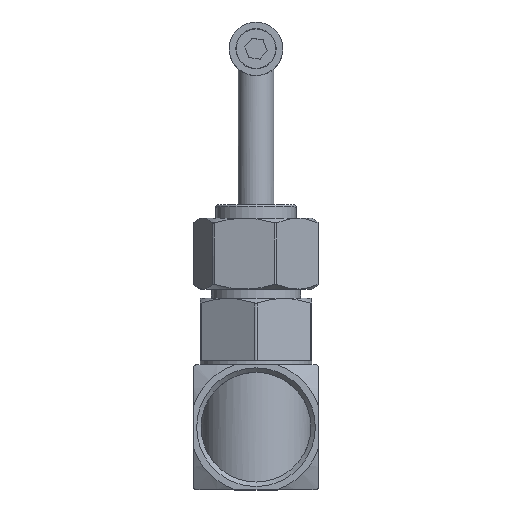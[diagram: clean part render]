
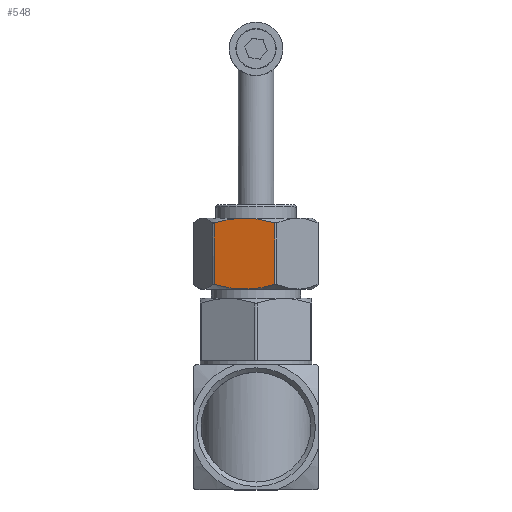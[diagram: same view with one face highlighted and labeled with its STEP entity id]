
A CAD part, top view. The second image highlights one B-rep face of the part: STEP entity #548.
In plain terms, the highlighted planar face has unit normal (-0.206, 0, 0.979).
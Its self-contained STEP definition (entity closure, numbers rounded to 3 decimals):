
#548=ADVANCED_FACE('',(#2056),#2058,.T.);
#2056=FACE_BOUND('',#2057,.T.);
#2057=EDGE_LOOP('',(#4092,#4093,#4094,#4095));
#2058=PLANE('',#2059);
#2059=AXIS2_PLACEMENT_3D('',#2060,#2061,#2062);
#2060=CARTESIAN_POINT('',(-9.636,31.,10.746));
#2061=DIRECTION('',(-0.206,0.,0.979));
#2062=DIRECTION('',(0.979,0.,0.206));
#4092=ORIENTED_EDGE('',*,*,#4884,.F.);
#4093=ORIENTED_EDGE('',*,*,#4885,.T.);
#4094=ORIENTED_EDGE('',*,*,#4877,.F.);
#4095=ORIENTED_EDGE('',*,*,#4886,.T.);
#4877=EDGE_CURVE('',#5398,#5396,#5400,.T.);
#4884=EDGE_CURVE('',#5411,#5412,#5413,.T.);
#4885=EDGE_CURVE('',#5411,#5396,#5414,.T.);
#4886=EDGE_CURVE('',#5398,#5412,#5415,.T.);
#5396=VERTEX_POINT('',#7944);
#5398=VERTEX_POINT('',#7987);
#5400=LINE('',#8030,#8031);
#5411=VERTEX_POINT('',#8215);
#5412=VERTEX_POINT('',#8216);
#5413=LINE('',#8217,#8218);
#5414=B_SPLINE_CURVE_WITH_KNOTS('',3,
(#8220,#8221,#8222,#8223,#8224,#8225,#8226,#8227,#8228,#8229,#8230,#8231,#8232,#8233,
#8234,#8235,#8236,#8237,#8238,#8239,#8240,#8241,#8242,#8243,#8244,#8245,#8246,#8247,
#8248,#8249,#8250,#8251,#8252,#8253,#8254,#8255),
.UNSPECIFIED.,.F.,.F.,
(4,1,1,1,1,1,1,1,1,1,1,1,1,1,1,1,1,1,1,1,1,1,1,1,1,1,1,1,1,1,1,1,1,4),
(0.,0.025,0.05,0.076,0.102,0.127,
0.154,0.18,0.208,0.235,0.263,
0.292,0.322,0.352,0.383,0.414,
0.447,0.479,0.5,0.511,0.545,
0.578,0.612,0.646,0.681,0.715,
0.75,0.785,0.82,0.856,0.891,
0.927,0.964,1.),
.UNSPECIFIED.);
#5415=B_SPLINE_CURVE_WITH_KNOTS('',3,
(#8256,#8257,#8258,#8259,#8260,#8261,#8262,#8263,#8264,#8265,#8266,#8267,#8268,#8269,
#8270,#8271,#8272,#8273,#8274,#8275,#8276,#8277,#8278,#8279,#8280,#8281,#8282,#8283,
#8284,#8285,#8286,#8287,#8288,#8289,#8290,#8291),
.UNSPECIFIED.,.F.,.F.,
(4,1,1,1,1,1,1,1,1,1,1,1,1,1,1,1,1,1,1,1,1,1,1,1,1,1,1,1,1,1,1,1,1,4),
(0.,0.025,0.05,0.076,0.102,0.127,
0.154,0.18,0.208,0.235,0.263,
0.292,0.322,0.352,0.383,0.414,
0.447,0.479,0.5,0.511,0.545,
0.578,0.612,0.646,0.681,0.715,
0.75,0.785,0.82,0.856,0.891,
0.927,0.964,1.),
.UNSPECIFIED.);
#7944=CARTESIAN_POINT('',(-9.354,45.927,10.805));
#7987=CARTESIAN_POINT('',(-9.354,32.073,10.805));
#8030=CARTESIAN_POINT('',(-9.354,32.073,10.805));
#8031=VECTOR('',#8032,1.);
#8032=DIRECTION('',(0.,1.,0.));
#8215=CARTESIAN_POINT('',(4.206,45.927,13.659));
#8216=CARTESIAN_POINT('',(4.206,32.073,13.659));
#8217=CARTESIAN_POINT('',(4.206,45.927,13.659));
#8218=VECTOR('',#8219,1.);
#8219=DIRECTION('',(0.,-1.,0.));
#8220=CARTESIAN_POINT('',(4.206,45.927,13.659));
#8221=CARTESIAN_POINT('',(4.077,45.964,13.631));
#8222=CARTESIAN_POINT('',(3.82,46.036,13.577));
#8223=CARTESIAN_POINT('',(3.44,46.137,13.497));
#8224=CARTESIAN_POINT('',(3.064,46.233,13.418));
#8225=CARTESIAN_POINT('',(2.692,46.322,13.34));
#8226=CARTESIAN_POINT('',(2.322,46.406,13.262));
#8227=CARTESIAN_POINT('',(1.952,46.485,13.184));
#8228=CARTESIAN_POINT('',(1.58,46.558,13.106));
#8229=CARTESIAN_POINT('',(1.209,46.625,13.028));
#8230=CARTESIAN_POINT('',(0.836,46.688,12.949));
#8231=CARTESIAN_POINT('',(0.46,46.744,12.87));
#8232=CARTESIAN_POINT('',(0.079,46.795,12.79));
#8233=CARTESIAN_POINT('',(-0.306,46.84,12.709));
#8234=CARTESIAN_POINT('',(-0.697,46.878,12.627));
#8235=CARTESIAN_POINT('',(-1.092,46.91,12.544));
#8236=CARTESIAN_POINT('',(-1.493,46.935,12.459));
#8237=CARTESIAN_POINT('',(-1.898,46.952,12.374));
#8238=CARTESIAN_POINT('',(-2.259,46.96,12.298));
#8239=CARTESIAN_POINT('',(-2.532,46.962,12.241));
#8240=CARTESIAN_POINT('',(-2.809,46.961,12.182));
#8241=CARTESIAN_POINT('',(-3.139,46.955,12.113));
#8242=CARTESIAN_POINT('',(-3.563,46.94,12.024));
#8243=CARTESIAN_POINT('',(-3.995,46.915,11.933));
#8244=CARTESIAN_POINT('',(-4.433,46.88,11.841));
#8245=CARTESIAN_POINT('',(-4.879,46.836,11.747));
#8246=CARTESIAN_POINT('',(-5.332,46.782,11.652));
#8247=CARTESIAN_POINT('',(-5.794,46.718,11.555));
#8248=CARTESIAN_POINT('',(-6.264,46.642,11.456));
#8249=CARTESIAN_POINT('',(-6.744,46.555,11.354));
#8250=CARTESIAN_POINT('',(-7.237,46.457,11.251));
#8251=CARTESIAN_POINT('',(-7.743,46.346,11.144));
#8252=CARTESIAN_POINT('',(-8.263,46.221,11.035));
#8253=CARTESIAN_POINT('',(-8.799,46.083,10.922));
#8254=CARTESIAN_POINT('',(-9.167,45.981,10.845));
#8255=CARTESIAN_POINT('',(-9.354,45.927,10.805));
#8256=CARTESIAN_POINT('',(-9.354,32.073,10.805));
#8257=CARTESIAN_POINT('',(-9.225,32.036,10.833));
#8258=CARTESIAN_POINT('',(-8.968,31.964,10.887));
#8259=CARTESIAN_POINT('',(-8.588,31.863,10.966));
#8260=CARTESIAN_POINT('',(-8.212,31.767,11.046));
#8261=CARTESIAN_POINT('',(-7.84,31.678,11.124));
#8262=CARTESIAN_POINT('',(-7.47,31.594,11.202));
#8263=CARTESIAN_POINT('',(-7.1,31.515,11.28));
#8264=CARTESIAN_POINT('',(-6.728,31.442,11.358));
#8265=CARTESIAN_POINT('',(-6.357,31.375,11.436));
#8266=CARTESIAN_POINT('',(-5.984,31.312,11.514));
#8267=CARTESIAN_POINT('',(-5.608,31.256,11.593));
#8268=CARTESIAN_POINT('',(-5.227,31.205,11.674));
#8269=CARTESIAN_POINT('',(-4.842,31.16,11.755));
#8270=CARTESIAN_POINT('',(-4.452,31.122,11.837));
#8271=CARTESIAN_POINT('',(-4.056,31.09,11.92));
#8272=CARTESIAN_POINT('',(-3.655,31.065,12.004));
#8273=CARTESIAN_POINT('',(-3.25,31.048,12.09));
#8274=CARTESIAN_POINT('',(-2.889,31.04,12.166));
#8275=CARTESIAN_POINT('',(-2.616,31.038,12.223));
#8276=CARTESIAN_POINT('',(-2.339,31.039,12.282));
#8277=CARTESIAN_POINT('',(-2.009,31.045,12.351));
#8278=CARTESIAN_POINT('',(-1.585,31.06,12.44));
#8279=CARTESIAN_POINT('',(-1.154,31.085,12.531));
#8280=CARTESIAN_POINT('',(-0.715,31.12,12.623));
#8281=CARTESIAN_POINT('',(-0.269,31.164,12.717));
#8282=CARTESIAN_POINT('',(0.184,31.218,12.812));
#8283=CARTESIAN_POINT('',(0.646,31.282,12.909));
#8284=CARTESIAN_POINT('',(1.116,31.358,13.008));
#8285=CARTESIAN_POINT('',(1.596,31.445,13.109));
#8286=CARTESIAN_POINT('',(2.089,31.543,13.213));
#8287=CARTESIAN_POINT('',(2.595,31.654,13.32));
#8288=CARTESIAN_POINT('',(3.115,31.779,13.429));
#8289=CARTESIAN_POINT('',(3.651,31.917,13.542));
#8290=CARTESIAN_POINT('',(4.019,32.019,13.619));
#8291=CARTESIAN_POINT('',(4.206,32.073,13.659));
